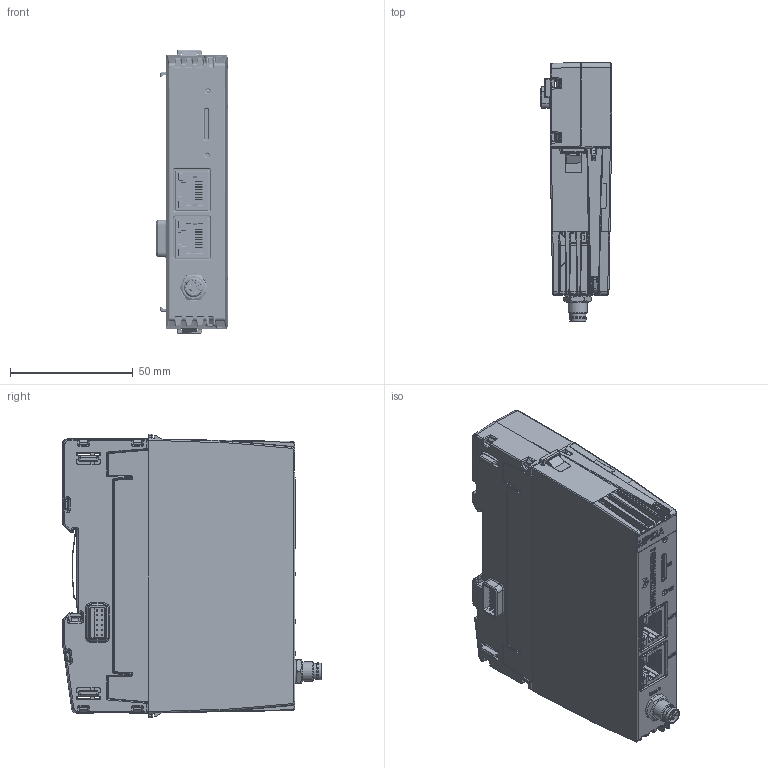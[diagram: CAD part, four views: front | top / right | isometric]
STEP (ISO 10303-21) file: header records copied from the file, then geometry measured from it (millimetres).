
FILE_DESCRIPTION(/* description */ (''),/* implementation_level */ '2;1');
FILE_NAME(/* name */ 'C:\Users\Public\Documents\Autodesk\Inventor 2023\MP32A_REVD_Simplified+BB61B.stp',/* time_stamp */ '2024-11-20T09:39:07+01:00',/* author */ ('asho'),/* organization */ (''),/* preprocessor_version */ 'ST-DEVELOPER v19',/* originating_system */ 'Autodesk Inventor 2023',/* authorisation */ '');
FILE_SCHEMA (('AUTOMOTIVE_DESIGN { 1 0 10303 214 3 1 1 }'));
Products named in the file (1): MP32A_REVD_Simplified+BB61B
Bounding box: 28.9 x 105.31 x 115.5 mm (x, y, z)
Volume: 111741.9 mm3; surface area: 84696.5 mm2
Topology: 8 solids, 9 shells, 6662 faces, 18093 edges, 11360 vertices
Faces by surface type: plane 3909, cylinder 1806, bspline 639, sphere 188, torus 74, cone 46
Full cylindrical faces by diameter (mm): 0.3 x39, 0.5 x2, 0.7 x36, 0.75 x2, 0.8 x17, 0.85 x24, 0.9 x28, 1 x8, 1.02 x8, 1.1 x1, 1.3 x4, 1.4 x4, 1.6 x3, 1.7 x4, 2.35 x2, 2.5 x1, 3 x3, 3.25 x2, 5.8 x1, 6.5 x1, 6.9 x1, 6.917 x1, 7.896 x1, 8.416 x2, 9 x1, 10.69 x1
Entity records: 235615 total; most frequent: CARTESIAN_POINT 62250, ORIENTED_EDGE 35824, DIRECTION 33191, EDGE_CURVE 17912, LINE 12585, VECTOR 12585, VERTEX_POINT 11360, AXIS2_PLACEMENT_3D 10303
